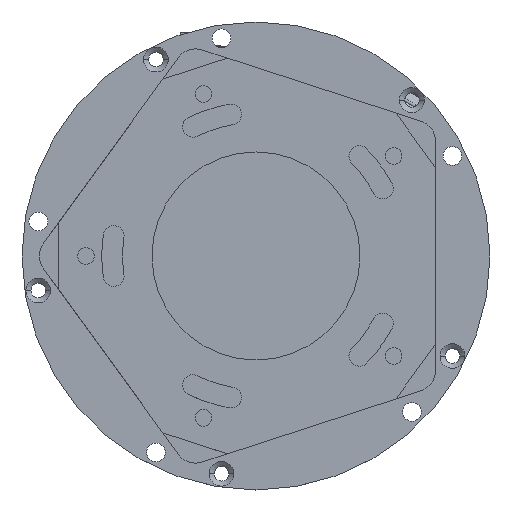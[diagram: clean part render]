
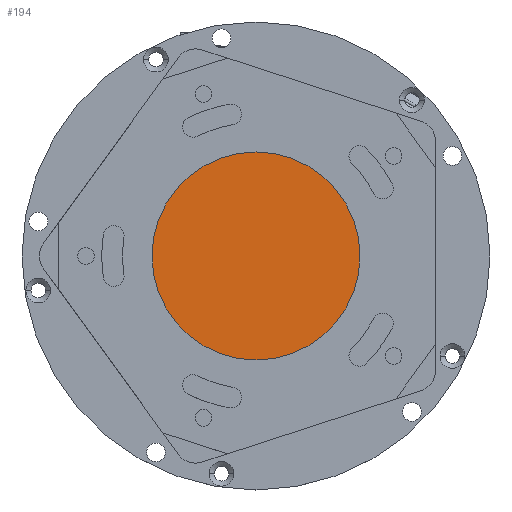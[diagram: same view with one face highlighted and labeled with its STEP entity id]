
A CAD part, top view. The second image highlights one B-rep face of the part: STEP entity #194.
In plain terms, the highlighted planar face has unit normal (0, 0, 1).
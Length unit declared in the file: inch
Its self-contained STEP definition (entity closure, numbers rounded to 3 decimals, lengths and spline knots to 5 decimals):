
#97 = ORIENTED_EDGE ( 'NONE', *, *, #11775, .T. ) ;
#129 = ORIENTED_EDGE ( 'NONE', *, *, #137, .T. ) ;
#137 = EDGE_CURVE ( 'NONE', #11748, #11690, #3416, .T. ) ;
#144 = EDGE_LOOP ( 'NONE', ( #129, #97 ) ) ;
#194 = ADVANCED_FACE ( 'NONE', ( #3588 ), #3549, .T. ) ;
#3413 = CARTESIAN_POINT ( 'NONE',  ( 0., 0., 0.05 ) ) ;
#3416 = CIRCLE ( 'NONE', #3483, 0.5 ) ;
#3477 = DIRECTION ( 'NONE',  ( 1., 0., 0. ) ) ;
#3478 = DIRECTION ( 'NONE',  ( 0., 0., 1. ) ) ;
#3483 = AXIS2_PLACEMENT_3D ( 'NONE', #3413, #3478, #3477 ) ;
#3549 = PLANE ( 'NONE',  #3587 ) ;
#3587 = AXIS2_PLACEMENT_3D ( 'NONE', #3636, #3635, #3634 ) ;
#3588 = FACE_OUTER_BOUND ( 'NONE', #144, .T. ) ;
#3634 = DIRECTION ( 'NONE',  ( 1., 0., 0. ) ) ;
#3635 = DIRECTION ( 'NONE',  ( 0., 0., 1. ) ) ;
#3636 = CARTESIAN_POINT ( 'NONE',  ( 0., 0., 0.05 ) ) ;
#11690 = VERTEX_POINT ( 'NONE', #17083 ) ;
#11748 = VERTEX_POINT ( 'NONE', #17242 ) ;
#11775 = EDGE_CURVE ( 'NONE', #11690, #11748, #17296, .T. ) ;
#17083 = CARTESIAN_POINT ( 'NONE',  ( -0.5, 0., 0.05 ) ) ;
#17242 = CARTESIAN_POINT ( 'NONE',  ( 0.5, 0., 0.05 ) ) ;
#17291 = AXIS2_PLACEMENT_3D ( 'NONE', #17318, #17350, #17349 ) ;
#17296 = CIRCLE ( 'NONE', #17291, 0.5 ) ;
#17318 = CARTESIAN_POINT ( 'NONE',  ( 0., 0., 0.05 ) ) ;
#17349 = DIRECTION ( 'NONE',  ( 1., 0., 0. ) ) ;
#17350 = DIRECTION ( 'NONE',  ( 0., 0., 1. ) ) ;
